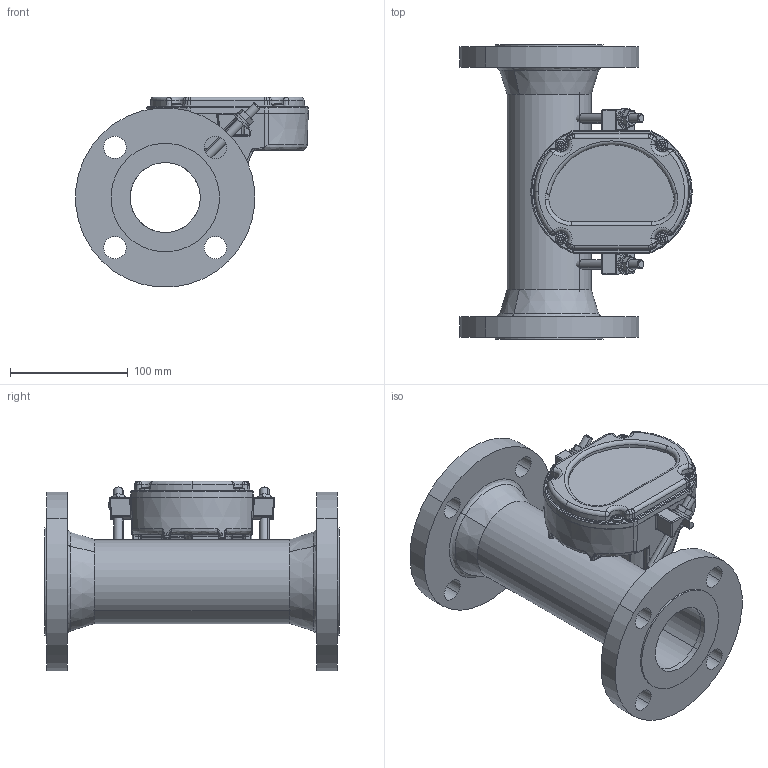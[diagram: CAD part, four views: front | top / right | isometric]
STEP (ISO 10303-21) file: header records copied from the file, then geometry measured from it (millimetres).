
FILE_DESCRIPTION (( 'STEP AP214' ), '1' );
FILE_NAME ('3809G-A-13-F-1-A-0.STEP', '2025-07-31T15:07:09', ( '' ), ( '' ), 'SwSTEP 2.0', 'SolidWorks 2023', '' );
FILE_SCHEMA (( 'AUTOMOTIVE_DESIGN' ));
Length unit declared in the file: inch
Products named in the file (16): Flange #13-2-150lbs_1_MODEL; GP Housing Assembly.sldasm-Part-6; Tube; Items_101_thru_103; GP Housing Assembly; GP Housing Assembly.sldasm-Part-3; GP Housing Assembly.sldasm-Part-5; GP Housing Assembly.sldasm-Part-1; 962D031; GP Housing Assembly.sldasm-Part-2; 3809G-A-13-F-1-A-0; 854z182_C-stud_ threaded; 962A031; GP Housing Assembly.sldasm-Part-4; 573b022_a_1; GP Housing Assembly.sldasm-Part-7
Assembly tree (23 placements, depth 3):
  3809G-A-13-F-1-A-0
    Flange #13-2-150lbs_1_MODEL  x2
    Tube
    Items_101_thru_103
      962A031
      962D031
      573b022_a_1
    GP Housing Assembly
      GP Housing Assembly.sldasm-Part-1  x2
      GP Housing Assembly.sldasm-Part-2
      GP Housing Assembly.sldasm-Part-3  x2
      GP Housing Assembly.sldasm-Part-4  x2
      GP Housing Assembly.sldasm-Part-5
      GP Housing Assembly.sldasm-Part-6
      GP Housing Assembly.sldasm-Part-7  x4
    854z182_C-stud_ threaded  x2
Bounding box: 197.38 x 250 x 161.25 mm (x, y, z)
Volume: 1429247.6 mm3; surface area: 320112.8 mm2
Topology: 21 solids, 22 shells, 1272 faces, 3117 edges, 1881 vertices
Faces by surface type: cylinder 497, plane 214, cone 189, torus 183, bspline 179, sphere 10
Entity records: 35087 total; most frequent: CARTESIAN_POINT 14583, DIRECTION 4248, ORIENTED_EDGE 4228, EDGE_CURVE 2114, AXIS2_PLACEMENT_3D 1805, VERTEX_POINT 1253, CIRCLE 1038, EDGE_LOOP 963
